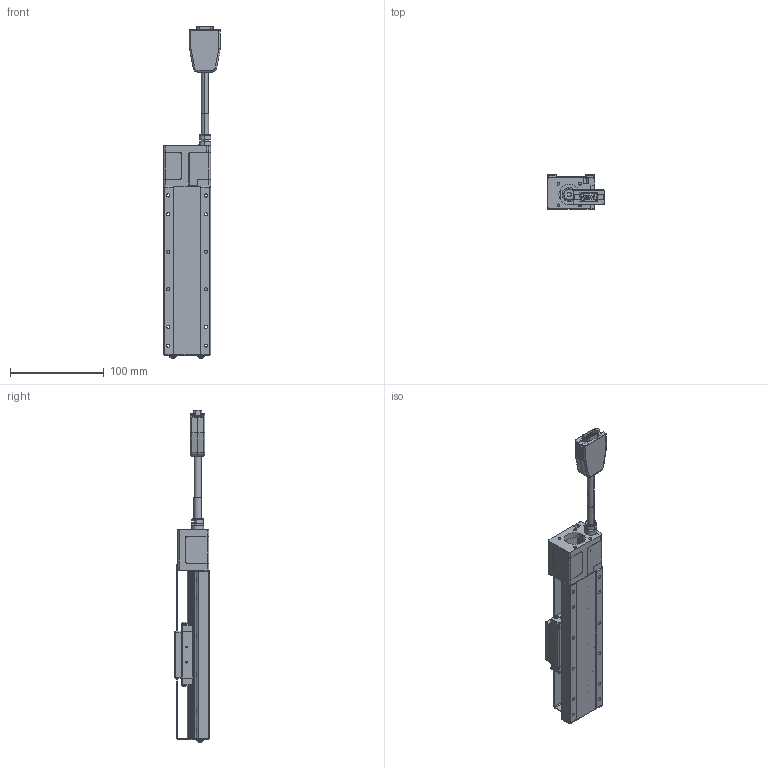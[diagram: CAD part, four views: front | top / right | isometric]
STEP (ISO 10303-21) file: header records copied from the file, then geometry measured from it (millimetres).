
FILE_DESCRIPTION (( 'STEP AP203' ), '1' );
FILE_NAME ('CXC50100-S2?N(28框無馬達).', '2024-01-05T03:01:20', ( '' ), ( '' ), 'SwSTEP 2.0', 'SolidWorks 2019', '' );
FILE_SCHEMA (( 'CONFIG_CONTROL_DESIGN' ));
Length unit declared in the file: millimetre
Products named in the file (8): CXC50-102-10; CXC50100-S2OPAN-303_50; SG02B004_SCM435(化鎳); SD04B006_SD04B006-SCM435(化鎳); Group2^CXC50100-S2?N(28框無馬達)_defeature_GMT; CXC50100-S2?N(28框無馬達); Group1^CXC50100-S2?N(28框無馬達)_defeature_GMT; SC03B008_SUS304(鍍鋅黑)
Assembly tree (13 placements, depth 2):
  CXC50100-S2?N(28框無馬達)
    Group1^CXC50100-S2?N(28框無馬達)_defeature_GMT
    Group2^CXC50100-S2?N(28框無馬達)_defeature_GMT
    CXC50100-S2OPAN-303_50
    SD04B006_SD04B006-SCM435(化鎳)  x2
    CXC50-102-10  x2
    SC03B008_SUS304(鍍鋅黑)  x4
    SG02B004_SCM435(化鎳)  x2
Bounding box: 60.5 x 37 x 353.8 mm (x, y, z)
Volume: 44636.6 mm3; surface area: 110366.3 mm2
Topology: 14 solids, 21 shells, 3620 faces, 9137 edges, 5459 vertices
Faces by surface type: plane 1578, cylinder 1093, bspline 290, cone 251, torus 236, sphere 172
Entity records: 112369 total; most frequent: CARTESIAN_POINT 31148, DIRECTION 16877, ORIENTED_EDGE 16862, EDGE_CURVE 8431, AXIS2_PLACEMENT_3D 6124, VERTEX_POINT 5137, VECTOR 4629, LINE 4629
